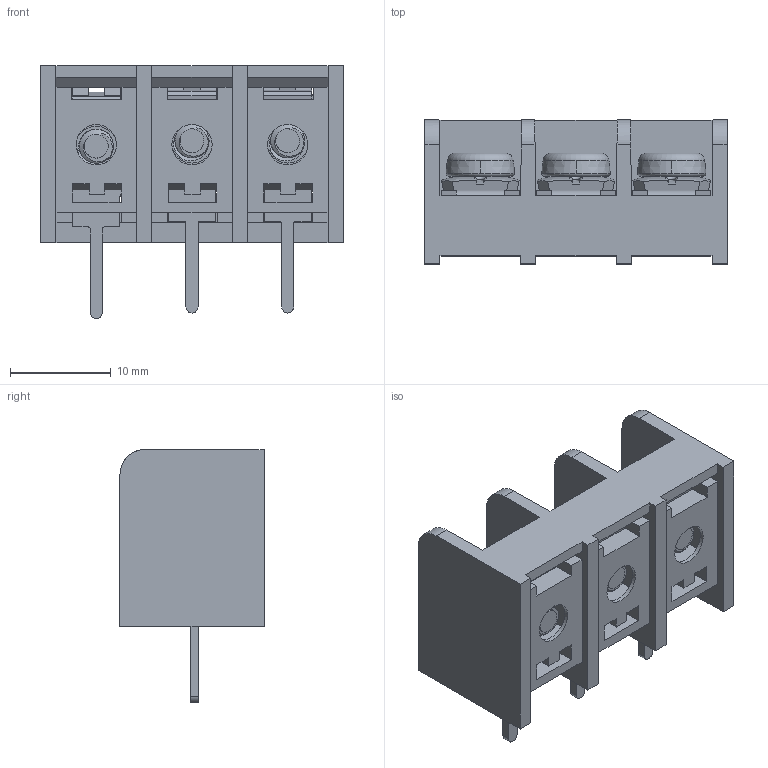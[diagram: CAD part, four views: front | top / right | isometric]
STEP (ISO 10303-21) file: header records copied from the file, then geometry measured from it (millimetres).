
FILE_DESCRIPTION((''),'2;1');
FILE_NAME('3PIN','2021-05-07T',('hanke'),(''),'CREO PARAMETRIC BY PTC INC, 2016260','CREO PARAMETRIC BY PTC INC, 2016260','');
FILE_SCHEMA(('CONFIG_CONTROL_DESIGN'));
Products named in the file (1): 3PIN
Bounding box: 30 x 14.3 x 25.1 mm (x, y, z)
Volume: 3494.2 mm3; surface area: 6088.1 mm2
Topology: 1 solids, 1 shells, 863 faces, 2857 edges, 1863 vertices
Faces by surface type: plane 547, bspline 144, cylinder 142, torus 18, cone 12
Entity records: 53330 total; most frequent: CARTESIAN_POINT 30370, ORIENTED_EDGE 5702, DIRECTION 3585, EDGE_CURVE 2851, VERTEX_POINT 1863, VECTOR 1615, LINE 1615, AXIS2_PLACEMENT_3D 985
